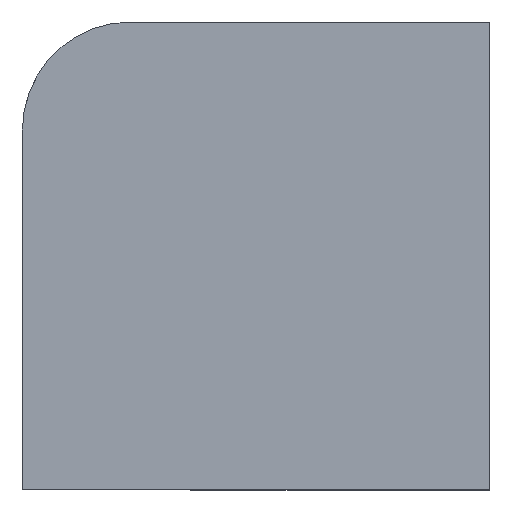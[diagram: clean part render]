
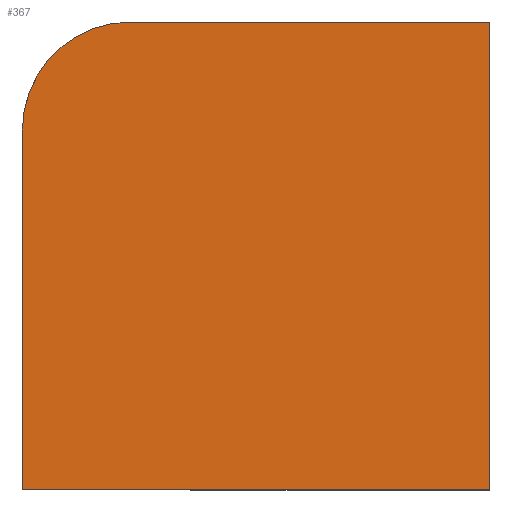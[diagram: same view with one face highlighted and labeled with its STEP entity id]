
A CAD part, top view. The second image highlights one B-rep face of the part: STEP entity #367.
In plain terms, the highlighted planar face has unit normal (0, 0, 1).
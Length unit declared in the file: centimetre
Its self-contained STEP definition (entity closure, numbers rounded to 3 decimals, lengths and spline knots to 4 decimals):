
#7 = PLANE ( 'NONE',  #17 ) ;
#17 = AXIS2_PLACEMENT_3D ( 'NONE', #323, #418, #175 ) ;
#47 = VECTOR ( 'NONE', #67, 100. ) ;
#62 = DIRECTION ( 'NONE',  ( 0., -1., 0. ) ) ;
#67 = DIRECTION ( 'NONE',  ( 0., 1., 0. ) ) ;
#72 = ORIENTED_EDGE ( 'NONE', *, *, #328, .T. ) ;
#74 = EDGE_LOOP ( 'NONE', ( #432, #185, #439, #72, #426 ) ) ;
#77 = VECTOR ( 'NONE', #62, 100. ) ;
#79 = VERTEX_POINT ( 'NONE', #181 ) ;
#80 = EDGE_CURVE ( 'NONE', #429, #79, #263, .T. ) ;
#130 = CARTESIAN_POINT ( 'NONE',  ( 231.2363, 768.7637, 1000. ) ) ;
#136 = CARTESIAN_POINT ( 'NONE',  ( 1000., 1000., 1000. ) ) ;
#143 = CARTESIAN_POINT ( 'NONE',  ( 0., 768.7637, 1000. ) ) ;
#152 = CIRCLE ( 'NONE', #344, 231.2363 ) ;
#168 = VERTEX_POINT ( 'NONE', #143 ) ;
#169 = DIRECTION ( 'NONE',  ( 1., 0., 0. ) ) ;
#172 = VECTOR ( 'NONE', #269, 100. ) ;
#173 = LINE ( 'NONE', #333, #183 ) ;
#175 = DIRECTION ( 'NONE',  ( 1., 0., 0. ) ) ;
#181 = CARTESIAN_POINT ( 'NONE',  ( 231.2363, 1000., 1000. ) ) ;
#183 = VECTOR ( 'NONE', #169, 100. ) ;
#185 = ORIENTED_EDGE ( 'NONE', *, *, #337, .T. ) ;
#203 = FACE_OUTER_BOUND ( 'NONE', #74, .T. ) ;
#211 = CARTESIAN_POINT ( 'NONE',  ( 0., 0., 1000. ) ) ;
#222 = CARTESIAN_POINT ( 'NONE',  ( 0., 1000., 1000. ) ) ;
#232 = VERTEX_POINT ( 'NONE', #335 ) ;
#252 = EDGE_CURVE ( 'NONE', #232, #429, #416, .T. ) ;
#253 = DIRECTION ( 'NONE',  ( 1., 0., 0. ) ) ;
#263 = LINE ( 'NONE', #349, #172 ) ;
#269 = DIRECTION ( 'NONE',  ( -1., 0., 0. ) ) ;
#295 = LINE ( 'NONE', #222, #77 ) ;
#314 = VERTEX_POINT ( 'NONE', #211 ) ;
#323 = CARTESIAN_POINT ( 'NONE',  ( 0., 0., 1000. ) ) ;
#328 = EDGE_CURVE ( 'NONE', #314, #232, #173, .T. ) ;
#333 = CARTESIAN_POINT ( 'NONE',  ( 0., 0., 1000. ) ) ;
#335 = CARTESIAN_POINT ( 'NONE',  ( 1000., 0., 1000. ) ) ;
#337 = EDGE_CURVE ( 'NONE', #79, #168, #152, .T. ) ;
#344 = AXIS2_PLACEMENT_3D ( 'NONE', #130, #489, #253 ) ;
#349 = CARTESIAN_POINT ( 'NONE',  ( 0., 1000., 1000. ) ) ;
#367 = ADVANCED_FACE ( 'NONE', ( #203 ), #7, .T. ) ;
#400 = EDGE_CURVE ( 'NONE', #168, #314, #295, .T. ) ;
#416 = LINE ( 'NONE', #419, #47 ) ;
#418 = DIRECTION ( 'NONE',  ( 0., 0., 1. ) ) ;
#419 = CARTESIAN_POINT ( 'NONE',  ( 1000., 1000., 1000. ) ) ;
#426 = ORIENTED_EDGE ( 'NONE', *, *, #252, .T. ) ;
#429 = VERTEX_POINT ( 'NONE', #136 ) ;
#432 = ORIENTED_EDGE ( 'NONE', *, *, #80, .T. ) ;
#439 = ORIENTED_EDGE ( 'NONE', *, *, #400, .T. ) ;
#489 = DIRECTION ( 'NONE',  ( 0., 0., 1. ) ) ;
